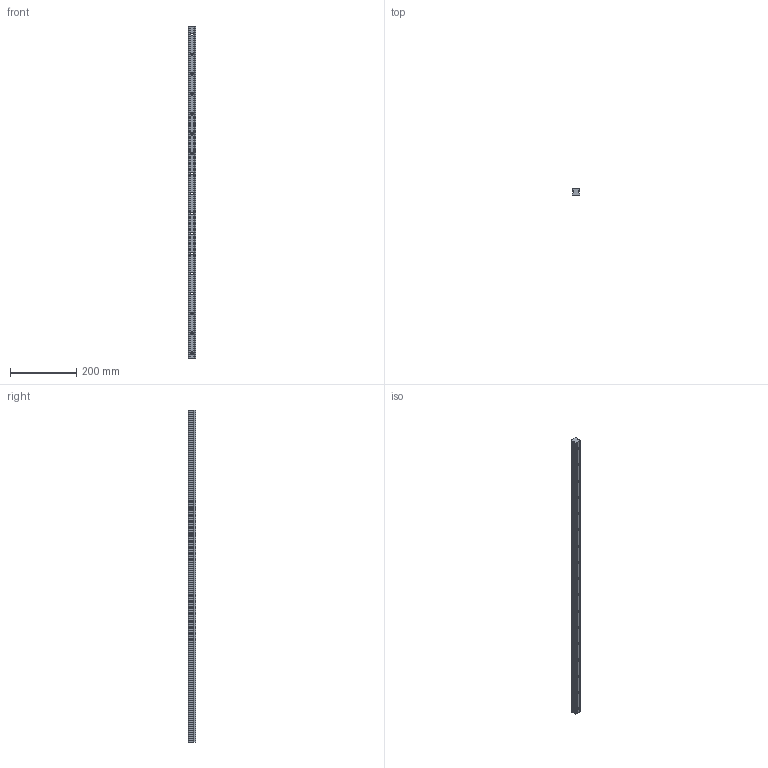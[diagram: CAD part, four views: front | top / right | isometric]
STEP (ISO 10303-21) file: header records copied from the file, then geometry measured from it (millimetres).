
FILE_DESCRIPTION (( 'STEP AP214' ), '1' );
FILE_NAME ('2.0003 Lineaarijohde HGR25R-C.STEP', '2024-04-19T12:30:11', ( '' ), ( '' ), 'SwSTEP 2.0', 'SolidWorks 2024', '' );
FILE_SCHEMA (( 'AUTOMOTIVE_DESIGN' ));
Length unit declared in the file: millimetre
Products named in the file (1): 2.0003 Lineaarijohde HGR25R-C
Bounding box: 23 x 22 x 1000 mm (x, y, z)
Volume: 416888.8 mm3; surface area: 102619.5 mm2
Topology: 1 solids, 1 shells, 119 faces, 300 edges, 200 vertices
Faces by surface type: cylinder 72, plane 47
Entity records: 3729 total; most frequent: DIRECTION 684, CARTESIAN_POINT 620, ORIENTED_EDGE 600, EDGE_CURVE 300, AXIS2_PLACEMENT_3D 264, VERTEX_POINT 200, EDGE_LOOP 170, VECTOR 156
